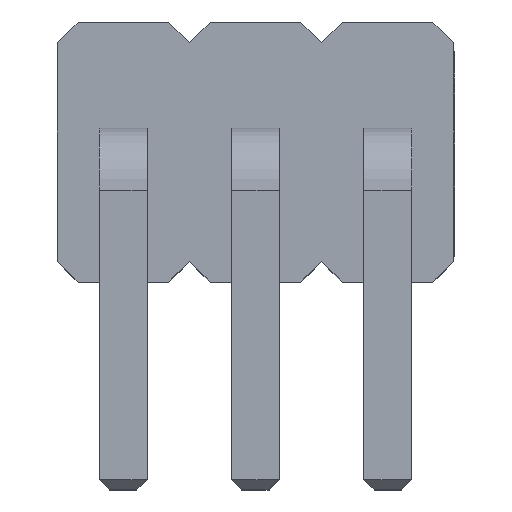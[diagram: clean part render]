
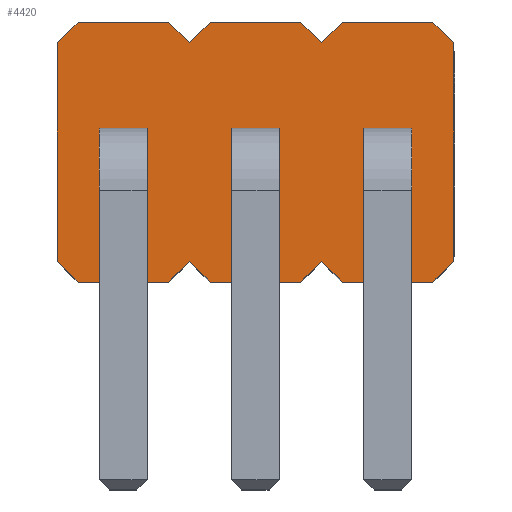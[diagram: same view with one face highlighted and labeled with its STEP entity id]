
A CAD part, top view. The second image highlights one B-rep face of the part: STEP entity #4420.
In plain terms, the highlighted planar face has unit normal (0, 0, 1).
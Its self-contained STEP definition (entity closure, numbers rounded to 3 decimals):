
#549=DIRECTION('',(1.,0.,0.));
#550=VECTOR('',#549,0.87);
#551=CARTESIAN_POINT('',(0.2,2.5,2.54));
#552=LINE('',#551,#550);
#601=DIRECTION('',(0.,1.,0.));
#602=VECTOR('',#601,2.1);
#603=CARTESIAN_POINT('',(0.,0.2,2.54));
#604=LINE('',#603,#602);
#609=DIRECTION('',(0.707,0.707,0.));
#610=VECTOR('',#609,0.283);
#611=CARTESIAN_POINT('',(2.34,0.,2.54));
#612=LINE('',#611,#610);
#613=DIRECTION('',(0.707,-0.707,0.));
#614=VECTOR('',#613,0.283);
#615=CARTESIAN_POINT('',(1.27,0.2,2.54));
#616=LINE('',#615,#614);
#617=DIRECTION('',(0.707,0.707,0.));
#618=VECTOR('',#617,0.283);
#619=CARTESIAN_POINT('',(1.07,0.,2.54));
#620=LINE('',#619,#618);
#621=DIRECTION('',(0.707,-0.707,0.));
#622=VECTOR('',#621,0.283);
#623=CARTESIAN_POINT('',(0.,0.2,2.54));
#624=LINE('',#623,#622);
#625=DIRECTION('',(-0.707,-0.707,0.));
#626=VECTOR('',#625,0.283);
#627=CARTESIAN_POINT('',(0.2,2.5,2.54));
#628=LINE('',#627,#626);
#629=DIRECTION('',(-0.707,0.707,0.));
#630=VECTOR('',#629,0.283);
#631=CARTESIAN_POINT('',(1.27,2.3,2.54));
#632=LINE('',#631,#630);
#633=DIRECTION('',(-0.707,-0.707,0.));
#634=VECTOR('',#633,0.283);
#635=CARTESIAN_POINT('',(1.47,2.5,2.54));
#636=LINE('',#635,#634);
#637=DIRECTION('',(-0.707,0.707,0.));
#638=VECTOR('',#637,0.283);
#639=CARTESIAN_POINT('',(2.54,2.3,2.54));
#640=LINE('',#639,#638);
#641=DIRECTION('',(-0.707,-0.707,0.));
#642=VECTOR('',#641,0.283);
#643=CARTESIAN_POINT('',(2.74,2.5,2.54));
#644=LINE('',#643,#642);
#645=DIRECTION('',(-0.707,0.707,0.));
#646=VECTOR('',#645,0.283);
#647=CARTESIAN_POINT('',(3.81,2.3,2.54));
#648=LINE('',#647,#646);
#649=DIRECTION('',(0.707,0.707,0.));
#650=VECTOR('',#649,0.283);
#651=CARTESIAN_POINT('',(3.61,0.,2.54));
#652=LINE('',#651,#650);
#653=DIRECTION('',(0.707,-0.707,0.));
#654=VECTOR('',#653,0.283);
#655=CARTESIAN_POINT('',(2.54,0.2,2.54));
#656=LINE('',#655,#654);
#657=DIRECTION('',(1.,0.,0.));
#658=VECTOR('',#657,0.46);
#659=CARTESIAN_POINT('',(1.675,1.48,2.54));
#660=LINE('',#659,#658);
#661=DIRECTION('',(0.,1.,0.));
#662=VECTOR('',#661,0.46);
#663=CARTESIAN_POINT('',(1.675,1.02,2.54));
#664=LINE('',#663,#662);
#665=DIRECTION('',(-1.,0.,0.));
#666=VECTOR('',#665,0.46);
#667=CARTESIAN_POINT('',(2.135,1.02,2.54));
#668=LINE('',#667,#666);
#669=DIRECTION('',(0.,-1.,0.));
#670=VECTOR('',#669,0.46);
#671=CARTESIAN_POINT('',(2.135,1.48,2.54));
#672=LINE('',#671,#670);
#673=DIRECTION('',(1.,0.,0.));
#674=VECTOR('',#673,0.46);
#675=CARTESIAN_POINT('',(2.945,1.48,2.54));
#676=LINE('',#675,#674);
#677=DIRECTION('',(0.,1.,0.));
#678=VECTOR('',#677,0.46);
#679=CARTESIAN_POINT('',(2.945,1.02,2.54));
#680=LINE('',#679,#678);
#681=DIRECTION('',(-1.,0.,0.));
#682=VECTOR('',#681,0.46);
#683=CARTESIAN_POINT('',(3.405,1.02,2.54));
#684=LINE('',#683,#682);
#685=DIRECTION('',(0.,-1.,0.));
#686=VECTOR('',#685,0.46);
#687=CARTESIAN_POINT('',(3.405,1.48,2.54));
#688=LINE('',#687,#686);
#689=DIRECTION('',(1.,0.,0.));
#690=VECTOR('',#689,0.46);
#691=CARTESIAN_POINT('',(0.405,1.48,2.54));
#692=LINE('',#691,#690);
#693=DIRECTION('',(0.,1.,0.));
#694=VECTOR('',#693,0.46);
#695=CARTESIAN_POINT('',(0.405,1.02,2.54));
#696=LINE('',#695,#694);
#697=DIRECTION('',(-1.,0.,0.));
#698=VECTOR('',#697,0.46);
#699=CARTESIAN_POINT('',(0.865,1.02,2.54));
#700=LINE('',#699,#698);
#701=DIRECTION('',(0.,-1.,0.));
#702=VECTOR('',#701,0.46);
#703=CARTESIAN_POINT('',(0.865,1.48,2.54));
#704=LINE('',#703,#702);
#713=DIRECTION('',(-1.,0.,0.));
#714=VECTOR('',#713,0.87);
#715=CARTESIAN_POINT('',(3.61,0.,2.54));
#716=LINE('',#715,#714);
#725=DIRECTION('',(0.,-1.,0.));
#726=VECTOR('',#725,2.1);
#727=CARTESIAN_POINT('',(3.81,2.3,2.54));
#728=LINE('',#727,#726);
#1694=DIRECTION('',(1.,0.,0.));
#1695=VECTOR('',#1694,0.87);
#1696=CARTESIAN_POINT('',(2.74,2.5,2.54));
#1697=LINE('',#1696,#1695);
#1710=DIRECTION('',(1.,0.,0.));
#1711=VECTOR('',#1710,0.87);
#1712=CARTESIAN_POINT('',(1.47,2.5,2.54));
#1713=LINE('',#1712,#1711);
#1846=DIRECTION('',(-1.,0.,0.));
#1847=VECTOR('',#1846,0.87);
#1848=CARTESIAN_POINT('',(1.07,0.,2.54));
#1849=LINE('',#1848,#1847);
#1862=DIRECTION('',(-1.,0.,0.));
#1863=VECTOR('',#1862,0.87);
#1864=CARTESIAN_POINT('',(2.34,0.,2.54));
#1865=LINE('',#1864,#1863);
#3527=CARTESIAN_POINT('',(0.2,2.5,2.54));
#3528=VERTEX_POINT('',#3527);
#3529=CARTESIAN_POINT('',(1.07,2.5,2.54));
#3530=VERTEX_POINT('',#3529);
#3535=CARTESIAN_POINT('',(1.47,2.5,2.54));
#3536=VERTEX_POINT('',#3535);
#3537=CARTESIAN_POINT('',(2.34,2.5,2.54));
#3538=VERTEX_POINT('',#3537);
#3543=CARTESIAN_POINT('',(2.34,0.,2.54));
#3544=VERTEX_POINT('',#3543);
#3545=CARTESIAN_POINT('',(1.47,0.,2.54));
#3546=VERTEX_POINT('',#3545);
#3551=CARTESIAN_POINT('',(1.07,0.,2.54));
#3552=VERTEX_POINT('',#3551);
#3553=CARTESIAN_POINT('',(0.2,0.,2.54));
#3554=VERTEX_POINT('',#3553);
#3575=CARTESIAN_POINT('',(2.74,2.5,2.54));
#3576=VERTEX_POINT('',#3575);
#3577=CARTESIAN_POINT('',(3.61,2.5,2.54));
#3578=VERTEX_POINT('',#3577);
#3579=CARTESIAN_POINT('',(0.,0.2,2.54));
#3580=CARTESIAN_POINT('',(0.,2.3,2.54));
#3581=VERTEX_POINT('',#3579);
#3582=VERTEX_POINT('',#3580);
#3591=CARTESIAN_POINT('',(3.61,0.,2.54));
#3592=CARTESIAN_POINT('',(2.74,0.,2.54));
#3593=VERTEX_POINT('',#3591);
#3594=VERTEX_POINT('',#3592);
#3595=CARTESIAN_POINT('',(3.81,2.3,2.54));
#3596=CARTESIAN_POINT('',(3.81,0.2,2.54));
#3597=VERTEX_POINT('',#3595);
#3598=VERTEX_POINT('',#3596);
#3607=CARTESIAN_POINT('',(2.54,0.2,2.54));
#3608=VERTEX_POINT('',#3607);
#3609=CARTESIAN_POINT('',(2.54,2.3,2.54));
#3610=VERTEX_POINT('',#3609);
#3611=CARTESIAN_POINT('',(1.27,2.3,2.54));
#3612=VERTEX_POINT('',#3611);
#3613=CARTESIAN_POINT('',(1.27,0.2,2.54));
#3614=VERTEX_POINT('',#3613);
#3615=CARTESIAN_POINT('',(1.675,1.48,2.54));
#3616=CARTESIAN_POINT('',(2.135,1.48,2.54));
#3617=VERTEX_POINT('',#3615);
#3618=VERTEX_POINT('',#3616);
#3619=CARTESIAN_POINT('',(2.135,1.02,2.54));
#3620=VERTEX_POINT('',#3619);
#3621=CARTESIAN_POINT('',(1.675,1.02,2.54));
#3622=VERTEX_POINT('',#3621);
#3623=CARTESIAN_POINT('',(2.945,1.48,2.54));
#3624=CARTESIAN_POINT('',(3.405,1.48,2.54));
#3625=VERTEX_POINT('',#3623);
#3626=VERTEX_POINT('',#3624);
#3627=CARTESIAN_POINT('',(3.405,1.02,2.54));
#3628=VERTEX_POINT('',#3627);
#3629=CARTESIAN_POINT('',(2.945,1.02,2.54));
#3630=VERTEX_POINT('',#3629);
#3631=CARTESIAN_POINT('',(0.405,1.48,2.54));
#3632=CARTESIAN_POINT('',(0.865,1.48,2.54));
#3633=VERTEX_POINT('',#3631);
#3634=VERTEX_POINT('',#3632);
#3635=CARTESIAN_POINT('',(0.865,1.02,2.54));
#3636=VERTEX_POINT('',#3635);
#3637=CARTESIAN_POINT('',(0.405,1.02,2.54));
#3638=VERTEX_POINT('',#3637);
#4345=CARTESIAN_POINT('',(0.,0.,2.54));
#4346=DIRECTION('',(0.,0.,1.));
#4347=DIRECTION('',(1.,0.,0.));
#4348=AXIS2_PLACEMENT_3D('',#4345,#4346,#4347);
#4349=PLANE('',#4348);
#4351=ORIENTED_EDGE('',*,*,#4350,.F.);
#4353=ORIENTED_EDGE('',*,*,#4352,.T.);
#4355=ORIENTED_EDGE('',*,*,#4354,.F.);
#4357=ORIENTED_EDGE('',*,*,#4356,.F.);
#4359=ORIENTED_EDGE('',*,*,#4358,.T.);
#4361=ORIENTED_EDGE('',*,*,#4360,.F.);
#4362=ORIENTED_EDGE('',*,*,#4327,.T.);
#4364=ORIENTED_EDGE('',*,*,#4363,.F.);
#4365=ORIENTED_EDGE('',*,*,#4284,.T.);
#4367=ORIENTED_EDGE('',*,*,#4366,.F.);
#4369=ORIENTED_EDGE('',*,*,#4368,.F.);
#4371=ORIENTED_EDGE('',*,*,#4370,.T.);
#4373=ORIENTED_EDGE('',*,*,#4372,.F.);
#4375=ORIENTED_EDGE('',*,*,#4374,.F.);
#4377=ORIENTED_EDGE('',*,*,#4376,.T.);
#4379=ORIENTED_EDGE('',*,*,#4378,.F.);
#4381=ORIENTED_EDGE('',*,*,#4380,.T.);
#4383=ORIENTED_EDGE('',*,*,#4382,.F.);
#4385=ORIENTED_EDGE('',*,*,#4384,.T.);
#4387=ORIENTED_EDGE('',*,*,#4386,.F.);
#4388=EDGE_LOOP('',(#4351,#4353,#4355,#4357,#4359,#4361,#4362,#4364,#4365,#4367,
#4369,#4371,#4373,#4375,#4377,#4379,#4381,#4383,#4385,#4387));
#4389=FACE_OUTER_BOUND('',#4388,.F.);
#4391=ORIENTED_EDGE('',*,*,#4390,.F.);
#4393=ORIENTED_EDGE('',*,*,#4392,.F.);
#4395=ORIENTED_EDGE('',*,*,#4394,.F.);
#4397=ORIENTED_EDGE('',*,*,#4396,.F.);
#4398=EDGE_LOOP('',(#4391,#4393,#4395,#4397));
#4399=FACE_BOUND('',#4398,.F.);
#4401=ORIENTED_EDGE('',*,*,#4400,.F.);
#4403=ORIENTED_EDGE('',*,*,#4402,.F.);
#4405=ORIENTED_EDGE('',*,*,#4404,.F.);
#4407=ORIENTED_EDGE('',*,*,#4406,.F.);
#4408=EDGE_LOOP('',(#4401,#4403,#4405,#4407));
#4409=FACE_BOUND('',#4408,.F.);
#4411=ORIENTED_EDGE('',*,*,#4410,.F.);
#4413=ORIENTED_EDGE('',*,*,#4412,.F.);
#4415=ORIENTED_EDGE('',*,*,#4414,.F.);
#4417=ORIENTED_EDGE('',*,*,#4416,.F.);
#4418=EDGE_LOOP('',(#4411,#4413,#4415,#4417));
#4419=FACE_BOUND('',#4418,.F.);
#4420=ADVANCED_FACE('',(#4389,#4399,#4409,#4419),#4349,.T.);
#4284=EDGE_CURVE('',#3528,#3530,#552,.T.);
#4327=EDGE_CURVE('',#3581,#3582,#604,.T.);
#4350=EDGE_CURVE('',#3544,#3608,#612,.T.);
#4352=EDGE_CURVE('',#3544,#3546,#1865,.T.);
#4354=EDGE_CURVE('',#3614,#3546,#616,.T.);
#4356=EDGE_CURVE('',#3552,#3614,#620,.T.);
#4358=EDGE_CURVE('',#3552,#3554,#1849,.T.);
#4360=EDGE_CURVE('',#3581,#3554,#624,.T.);
#4363=EDGE_CURVE('',#3528,#3582,#628,.T.);
#4366=EDGE_CURVE('',#3612,#3530,#632,.T.);
#4368=EDGE_CURVE('',#3536,#3612,#636,.T.);
#4370=EDGE_CURVE('',#3536,#3538,#1713,.T.);
#4372=EDGE_CURVE('',#3610,#3538,#640,.T.);
#4374=EDGE_CURVE('',#3576,#3610,#644,.T.);
#4376=EDGE_CURVE('',#3576,#3578,#1697,.T.);
#4378=EDGE_CURVE('',#3597,#3578,#648,.T.);
#4380=EDGE_CURVE('',#3597,#3598,#728,.T.);
#4382=EDGE_CURVE('',#3593,#3598,#652,.T.);
#4384=EDGE_CURVE('',#3593,#3594,#716,.T.);
#4386=EDGE_CURVE('',#3608,#3594,#656,.T.);
#4390=EDGE_CURVE('',#3617,#3618,#660,.T.);
#4392=EDGE_CURVE('',#3622,#3617,#664,.T.);
#4394=EDGE_CURVE('',#3620,#3622,#668,.T.);
#4396=EDGE_CURVE('',#3618,#3620,#672,.T.);
#4400=EDGE_CURVE('',#3625,#3626,#676,.T.);
#4402=EDGE_CURVE('',#3630,#3625,#680,.T.);
#4404=EDGE_CURVE('',#3628,#3630,#684,.T.);
#4406=EDGE_CURVE('',#3626,#3628,#688,.T.);
#4410=EDGE_CURVE('',#3633,#3634,#692,.T.);
#4412=EDGE_CURVE('',#3638,#3633,#696,.T.);
#4414=EDGE_CURVE('',#3636,#3638,#700,.T.);
#4416=EDGE_CURVE('',#3634,#3636,#704,.T.);
